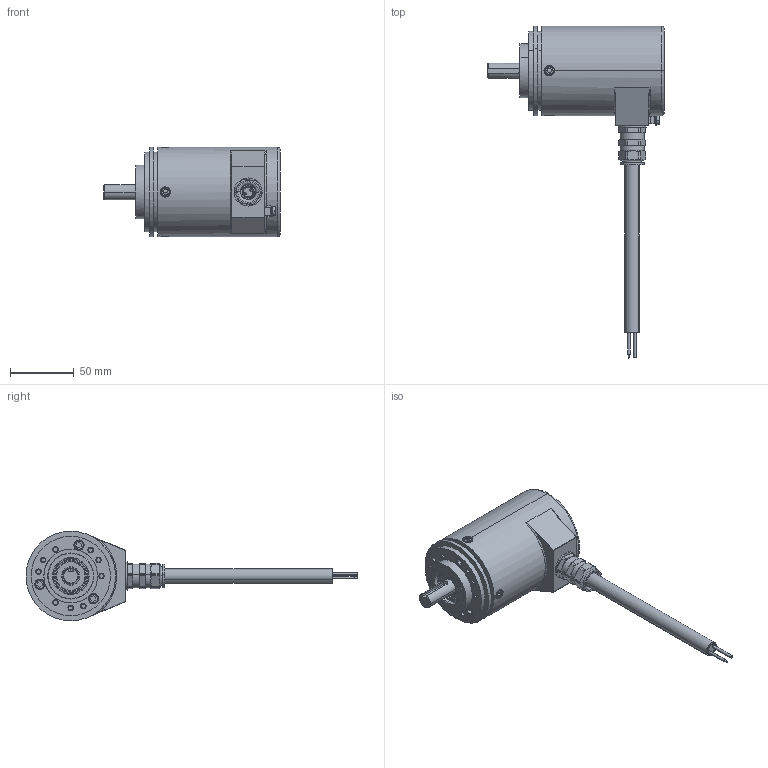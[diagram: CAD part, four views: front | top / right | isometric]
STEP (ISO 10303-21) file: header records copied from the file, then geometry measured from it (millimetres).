
FILE_DESCRIPTION (( 'STEP AP214' ), '1' );
FILE_NAME ('8.7000.11X2.XXXX.STEP', '2014-04-30T08:42:45', ( 'HeirlerN' ), ( 'Microsoft' ), 'SwSTEP 2.0', 'SolidWorks 2013', '' );
FILE_SCHEMA (( 'AUTOMOTIVE_DESIGN' ));
Length unit declared in the file: millimetre
Products named in the file (1): 8.7000.11X2.XXXX
Bounding box: 137.7 x 259.5 x 70 mm (x, y, z)
Surface area: 49620.2 mm2 (no closed solid volume)
Topology: 0 solids, 23 shells, 322 faces, 836 edges, 532 vertices
Faces by surface type: cylinder 129, plane 123, cone 41, torus 25, bspline 4
Entity records: 14480 total; most frequent: CARTESIAN_POINT 3057, DIRECTION 1739, ORIENTED_EDGE 1472, EDGE_CURVE 832, AXIS2_PLACEMENT_3D 664, VERTEX_POINT 532, VECTOR 411, LINE 411
